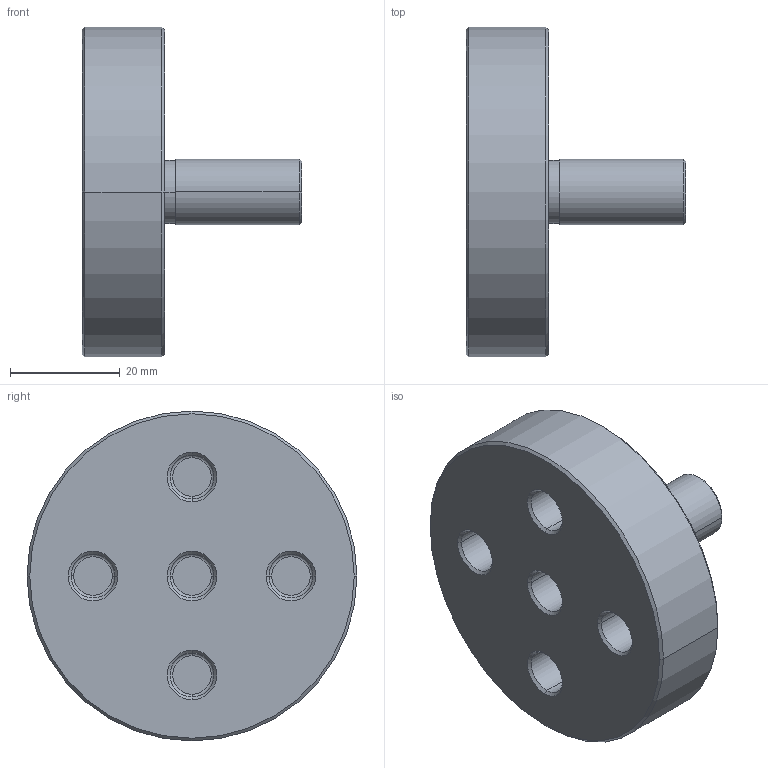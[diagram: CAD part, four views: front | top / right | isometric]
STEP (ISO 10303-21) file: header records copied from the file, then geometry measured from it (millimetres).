
FILE_DESCRIPTION(('CATIA V5 STEP Exchange'),'2;1');
FILE_NAME('D:\姚明阳\1、工装图纸\VDC压堵盖\工装数模和图纸\AGZ133.04_V1.stp','2025-04-25T02:05:47+00:00',('none'),('none'),'CATIA Version 5 Release 21 GA (IN-10)','CATIA V5 STEP AP214','none');
FILE_SCHEMA(('AUTOMOTIVE_DESIGN { 1 0 10303 214 1 1 1 1 }'));
Length unit declared in the file: millimetre
Products named in the file (1): AGZ133.04_V1
Bounding box: 40 x 60 x 60 mm (x, y, z)
Volume: 42646 mm3; surface area: 10511.6 mm2
Topology: 1 solids, 1 shells, 51 faces, 100 edges, 58 vertices
Faces by surface type: cone 16, cylinder 16, torus 10, plane 9
Entity records: 1215 total; most frequent: ORIENTED_EDGE 200, CARTESIAN_POINT 199, DIRECTION 180, AXIS2_PLACEMENT_3D 109, EDGE_CURVE 100, CIRCLE 68, EDGE_LOOP 58, VERTEX_POINT 58
